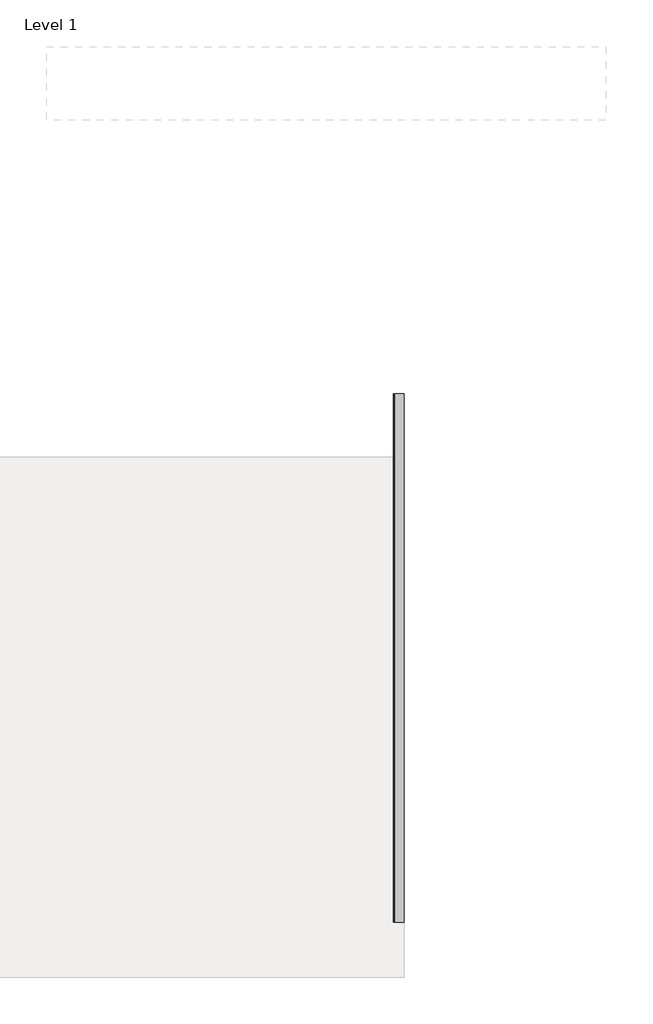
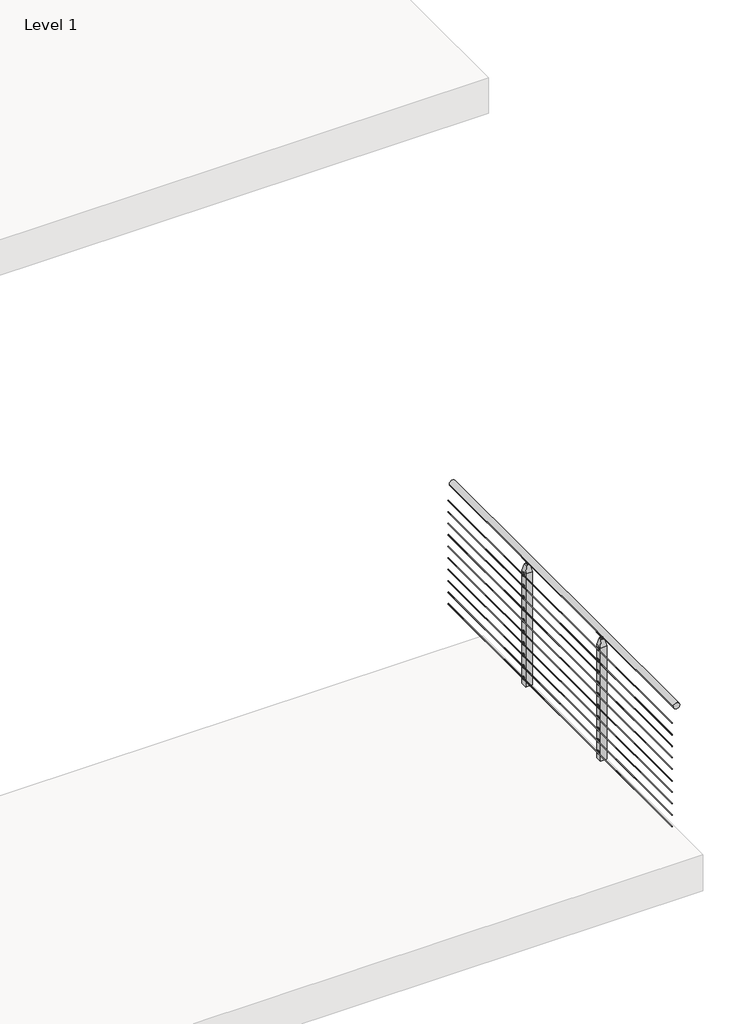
# One storey, part 7 of 26: 1 railing.
"""IFC4 building model written with IfcOpenShell, lengths in millimetres."""

from ifc_helpers import new_model, si_unit, point, frame, frame_2d, origin, place, context, project, spatial, polyline, circle_curve, trimmed, segment, composite_curve, outline, extrude, faceted_brep, element, save
from ifc_brep_helpers import plane_surface, cylinder_surface, advanced_brep

model = new_model("IFC4")

# Units and contexts
model_context = context("Model", 3, world=origin())
ifc_project = project(units=[si_unit("LENGTHUNIT", "METRE", prefix="MILLI")], contexts=[model_context])

# Site, building, storey
site = spatial("IfcSite", under=ifc_project)
building = spatial("IfcBuilding", under=site)
storey = spatial("IfcBuildingStorey", under=building, Name="Level 1", Elevation=0.0)

# Railing
placement = place(None, origin())
element("IfcRailing", 1, ObjectType="VIVA-CUBE-Multiline-Cable-Weld Mount-Straight", at=placement, inside=storey, context=model_context, shape_type="SolidModel", body=[
    extrude(outline(composite_curve([segment(trimmed(circle_curve(frame_2d((1054.1, 45321.3855247)), 25.4), [point((1054.1, 45346.7855247))], [point((1054.1, 45295.9855247))], False, "CARTESIAN"), True, "CONTINUOUS"), segment(trimmed(circle_curve(frame_2d((1054.1, 45321.3855247)), 25.4), [point((1054.1, 45295.9855247))], [point((1054.1, 45346.7855247))], False, "CARTESIAN"), True, "CONTINUOUS")], self_intersect=False)), frame((0.0, -73467.0943064, 0.0), z_axis=(0.0, 1.0, 0.0), x_axis=(0.0, 0.0, 1.0)), (0.0, 0.0, 1.0), 3048.0),
    extrude(outline(composite_curve([segment(trimmed(circle_curve(frame_2d((922.1724, 45288.3655247)), 2.3876), [point((922.1724, 45285.9779247))], [point((922.1724, 45290.7531247))], False, "CARTESIAN"), True, "CONTINUOUS"), segment(trimmed(circle_curve(frame_2d((922.1724, 45288.3655247)), 2.3876), [point((922.1724, 45290.7531247))], [point((922.1724, 45285.9779247))], False, "CARTESIAN"), True, "CONTINUOUS")], self_intersect=False)), frame((0.0, -73467.0943064, 0.0), z_axis=(0.0, 1.0, 0.0), x_axis=(0.0, 0.0, 1.0)), (0.0, 0.0, 1.0), 3048.0),
    extrude(outline(composite_curve([segment(trimmed(circle_curve(frame_2d((824.3824, 45288.3655247)), 2.3876), [point((824.3824, 45285.9779247))], [point((824.3824, 45290.7531247))], False, "CARTESIAN"), True, "CONTINUOUS"), segment(trimmed(circle_curve(frame_2d((824.3824, 45288.3655247)), 2.3876), [point((824.3824, 45290.7531247))], [point((824.3824, 45285.9779247))], False, "CARTESIAN"), True, "CONTINUOUS")], self_intersect=False)), frame((0.0, -73467.0943064, 0.0), z_axis=(0.0, 1.0, 0.0), x_axis=(0.0, 0.0, 1.0)), (0.0, 0.0, 1.0), 3048.0),
    extrude(outline(composite_curve([segment(trimmed(circle_curve(frame_2d((729.1324, 45288.3655247)), 2.3876), [point((729.1324, 45285.9779247))], [point((729.1324, 45290.7531247))], False, "CARTESIAN"), True, "CONTINUOUS"), segment(trimmed(circle_curve(frame_2d((729.1324, 45288.3655247)), 2.3876), [point((729.1324, 45290.7531247))], [point((729.1324, 45285.9779247))], False, "CARTESIAN"), True, "CONTINUOUS")], self_intersect=False)), frame((0.0, -73467.0943064, 0.0), z_axis=(0.0, 1.0, 0.0), x_axis=(0.0, 0.0, 1.0)), (0.0, 0.0, 1.0), 3048.0),
    extrude(outline(composite_curve([segment(trimmed(circle_curve(frame_2d((636.4224, 45288.3655247)), 2.3876), [point((636.4224, 45285.9779247))], [point((636.4224, 45290.7531247))], False, "CARTESIAN"), True, "CONTINUOUS"), segment(trimmed(circle_curve(frame_2d((636.4224, 45288.3655247)), 2.3876), [point((636.4224, 45290.7531247))], [point((636.4224, 45285.9779247))], False, "CARTESIAN"), True, "CONTINUOUS")], self_intersect=False)), frame((0.0, -73467.0943064, 0.0), z_axis=(0.0, 1.0, 0.0), x_axis=(0.0, 0.0, 1.0)), (0.0, 0.0, 1.0), 3048.0),
    extrude(outline(composite_curve([segment(trimmed(circle_curve(frame_2d((539.9024, 45288.3655247)), 2.3876), [point((539.9024, 45285.9779247))], [point((539.9024, 45290.7531247))], False, "CARTESIAN"), True, "CONTINUOUS"), segment(trimmed(circle_curve(frame_2d((539.9024, 45288.3655247)), 2.3876), [point((539.9024, 45290.7531247))], [point((539.9024, 45285.9779247))], False, "CARTESIAN"), True, "CONTINUOUS")], self_intersect=False)), frame((0.0, -73467.0943064, 0.0), z_axis=(0.0, 1.0, 0.0), x_axis=(0.0, 0.0, 1.0)), (0.0, 0.0, 1.0), 3048.0),
    extrude(outline(composite_curve([segment(trimmed(circle_curve(frame_2d((442.1124, 45288.3655247)), 2.3876), [point((442.1124, 45285.9779247))], [point((442.1124, 45290.7531247))], False, "CARTESIAN"), True, "CONTINUOUS"), segment(trimmed(circle_curve(frame_2d((442.1124, 45288.3655247)), 2.3876), [point((442.1124, 45290.7531247))], [point((442.1124, 45285.9779247))], False, "CARTESIAN"), True, "CONTINUOUS")], self_intersect=False)), frame((0.0, -73467.0943064, 0.0), z_axis=(0.0, 1.0, 0.0), x_axis=(0.0, 0.0, 1.0)), (0.0, 0.0, 1.0), 3048.0),
    extrude(outline(composite_curve([segment(trimmed(circle_curve(frame_2d((349.4024, 45288.3655247)), 2.3876), [point((349.4024, 45285.9779247))], [point((349.4024, 45290.7531247))], False, "CARTESIAN"), True, "CONTINUOUS"), segment(trimmed(circle_curve(frame_2d((349.4024, 45288.3655247)), 2.3876), [point((349.4024, 45290.7531247))], [point((349.4024, 45285.9779247))], False, "CARTESIAN"), True, "CONTINUOUS")], self_intersect=False)), frame((0.0, -73467.0943064, 0.0), z_axis=(0.0, 1.0, 0.0), x_axis=(0.0, 0.0, 1.0)), (0.0, 0.0, 1.0), 3048.0),
    extrude(outline(composite_curve([segment(trimmed(circle_curve(frame_2d((254.1524, 45288.3655247)), 2.3876), [point((254.1524, 45285.9779247))], [point((254.1524, 45290.7531247))], False, "CARTESIAN"), True, "CONTINUOUS"), segment(trimmed(circle_curve(frame_2d((254.1524, 45288.3655247)), 2.3876), [point((254.1524, 45290.7531247))], [point((254.1524, 45285.9779247))], False, "CARTESIAN"), True, "CONTINUOUS")], self_intersect=False)), frame((0.0, -73467.0943064, 0.0), z_axis=(0.0, 1.0, 0.0), x_axis=(0.0, 0.0, 1.0)), (0.0, 0.0, 1.0), 3048.0),
    extrude(outline(composite_curve([segment(trimmed(circle_curve(frame_2d((158.9024, 45288.3655247)), 2.3876), [point((158.9024, 45285.9779247))], [point((158.9024, 45290.7531247))], False, "CARTESIAN"), True, "CONTINUOUS"), segment(trimmed(circle_curve(frame_2d((158.9024, 45288.3655247)), 2.3876), [point((158.9024, 45290.7531247))], [point((158.9024, 45285.9779247))], False, "CARTESIAN"), True, "CONTINUOUS")], self_intersect=False)), frame((0.0, -73467.0943064, 0.0), z_axis=(0.0, 1.0, 0.0), x_axis=(0.0, 0.0, 1.0)), (0.0, 0.0, 1.0), 3048.0),
    extrude(outline(composite_curve([segment(trimmed(circle_curve(frame_2d((63.6524, 45288.3655247)), 2.3876), [point((63.6524, 45285.9779247))], [point((63.6524, 45290.7531247))], False, "CARTESIAN"), True, "CONTINUOUS"), segment(trimmed(circle_curve(frame_2d((63.6524, 45288.3655247)), 2.3876), [point((63.6524, 45290.7531247))], [point((63.6524, 45285.9779247))], False, "CARTESIAN"), True, "CONTINUOUS")], self_intersect=False)), frame((0.0, -73467.0943064, 0.0), z_axis=(0.0, 1.0, 0.0), x_axis=(0.0, 0.0, 1.0)), (0.0, 0.0, 1.0), 3048.0),
    advanced_brep(
    [(45290.6423505, -71421.6340985, 63.5), (45290.6423505, -71446.9670144, 63.5), (45290.6423505, -71434.3005564, 63.5), (45295.9763505, -71421.6340985, 63.5), (45295.9763505, -71446.9670144, 63.5), (45295.9763505, -71434.3005564, 63.5)],
    [
        (0, 1, circle_curve(frame((45290.6423505, -71434.3005564, 63.5), z_axis=(-1.0, 0.0, 0.0), x_axis=(0.0, -1.0, 0.0)), 12.666458)),
        (1, 2),
        (2, 0),
        (1, 0, circle_curve(frame((45290.6423505, -71434.3005564, 63.5), z_axis=(-1.0, 0.0, 0.0), x_axis=(0.0, -1.0, 0.0)), 12.666458)),
        (3, 4, circle_curve(frame((45295.9763505, -71434.3005564, 63.5), z_axis=(-1.0, 0.0, 0.0), x_axis=(0.0, -1.0, 0.0)), 12.666458)),
        (4, 1),
        (0, 3),
        (4, 3, circle_curve(frame((45295.9763505, -71434.3005564, 63.5), z_axis=(-1.0, 0.0, 0.0), x_axis=(0.0, -1.0, 0.0)), 12.666458)),
        (5, 4),
        (3, 5),
    ],
    [
        plane_surface(frame((45290.6423505, -71434.3005564, 63.5), z_axis=(-1.0, 0.0, 0.0), x_axis=(0.0, -1.0, 0.0))),
        cylinder_surface(frame((45422.9855247, -71434.3005564, 63.5), z_axis=(1.0, 0.0, 0.0), x_axis=(0.0, -1.0, 0.0)), 12.666458),
        plane_surface(frame((45295.9763505, -71434.3005564, 63.5), z_axis=(1.0, 0.0, 0.0), x_axis=(0.0, -1.0, 0.0))),
    ],
    [
        (0, [[1, 2, 3]]),
        (0, [[4, -3, -2]]),
        (1, [[5, 6, -1, 7]]),
        (1, [[8, -7, -4, -6]]),
        (2, [[9, -5, 10]]),
        (2, [[-10, -8, -9]]),
    ],
),
    advanced_brep(
    [(45290.6423505, -71421.6340985, 158.75), (45290.6423505, -71446.9670144, 158.75), (45290.6423505, -71434.3005564, 158.75), (45295.9763505, -71421.6340985, 158.75), (45295.9763505, -71446.9670144, 158.75), (45295.9763505, -71434.3005564, 158.75)],
    [
        (0, 1, circle_curve(frame((45290.6423505, -71434.3005564, 158.75), z_axis=(-1.0, 0.0, 0.0), x_axis=(0.0, -1.0, 0.0)), 12.666458)),
        (1, 2),
        (2, 0),
        (1, 0, circle_curve(frame((45290.6423505, -71434.3005564, 158.75), z_axis=(-1.0, 0.0, 0.0), x_axis=(0.0, -1.0, 0.0)), 12.666458)),
        (3, 4, circle_curve(frame((45295.9763505, -71434.3005564, 158.75), z_axis=(-1.0, 0.0, 0.0), x_axis=(0.0, -1.0, 0.0)), 12.666458)),
        (4, 1),
        (0, 3),
        (4, 3, circle_curve(frame((45295.9763505, -71434.3005564, 158.75), z_axis=(-1.0, 0.0, 0.0), x_axis=(0.0, -1.0, 0.0)), 12.666458)),
        (5, 4),
        (3, 5),
    ],
    [
        plane_surface(frame((45290.6423505, -71434.3005564, 158.75), z_axis=(-1.0, 0.0, 0.0), x_axis=(0.0, -1.0, 0.0))),
        cylinder_surface(frame((45422.9855247, -71434.3005564, 158.75), z_axis=(1.0, 0.0, 0.0), x_axis=(0.0, -1.0, 0.0)), 12.666458),
        plane_surface(frame((45295.9763505, -71434.3005564, 158.75), z_axis=(1.0, 0.0, 0.0), x_axis=(0.0, -1.0, 0.0))),
    ],
    [
        (0, [[1, 2, 3]]),
        (0, [[4, -3, -2]]),
        (1, [[5, 6, -1, 7]]),
        (1, [[8, -7, -4, -6]]),
        (2, [[9, -5, 10]]),
        (2, [[-10, -8, -9]]),
    ],
),
    advanced_brep(
    [(45290.6423505, -71421.6340985, 254.0), (45290.6423505, -71446.9670144, 254.0), (45290.6423505, -71434.3005564, 254.0), (45295.9763505, -71421.6340985, 254.0), (45295.9763505, -71446.9670144, 254.0), (45295.9763505, -71434.3005564, 254.0)],
    [
        (0, 1, circle_curve(frame((45290.6423505, -71434.3005564, 254.0), z_axis=(-1.0, 0.0, 0.0), x_axis=(0.0, -1.0, 0.0)), 12.666458)),
        (1, 2),
        (2, 0),
        (1, 0, circle_curve(frame((45290.6423505, -71434.3005564, 254.0), z_axis=(-1.0, 0.0, 0.0), x_axis=(0.0, -1.0, 0.0)), 12.666458)),
        (3, 4, circle_curve(frame((45295.9763505, -71434.3005564, 254.0), z_axis=(-1.0, 0.0, 0.0), x_axis=(0.0, -1.0, 0.0)), 12.666458)),
        (4, 1),
        (0, 3),
        (4, 3, circle_curve(frame((45295.9763505, -71434.3005564, 254.0), z_axis=(-1.0, 0.0, 0.0), x_axis=(0.0, -1.0, 0.0)), 12.666458)),
        (5, 4),
        (3, 5),
    ],
    [
        plane_surface(frame((45290.6423505, -71434.3005564, 254.0), z_axis=(-1.0, 0.0, 0.0), x_axis=(0.0, -1.0, 0.0))),
        cylinder_surface(frame((45422.9855247, -71434.3005564, 254.0), z_axis=(1.0, 0.0, 0.0), x_axis=(0.0, -1.0, 0.0)), 12.666458),
        plane_surface(frame((45295.9763505, -71434.3005564, 254.0), z_axis=(1.0, 0.0, 0.0), x_axis=(0.0, -1.0, 0.0))),
    ],
    [
        (0, [[1, 2, 3]]),
        (0, [[4, -3, -2]]),
        (1, [[5, 6, -1, 7]]),
        (1, [[8, -7, -4, -6]]),
        (2, [[9, -5, 10]]),
        (2, [[-10, -8, -9]]),
    ],
),
    advanced_brep(
    [(45290.6423505, -71421.6340985, 349.25), (45290.6423505, -71446.9670144, 349.25), (45290.6423505, -71434.3005564, 349.25), (45295.9763505, -71421.6340985, 349.25), (45295.9763505, -71446.9670144, 349.25), (45295.9763505, -71434.3005564, 349.25)],
    [
        (0, 1, circle_curve(frame((45290.6423505, -71434.3005564, 349.25), z_axis=(-1.0, 0.0, 0.0), x_axis=(0.0, -1.0, 0.0)), 12.666458)),
        (1, 2),
        (2, 0),
        (1, 0, circle_curve(frame((45290.6423505, -71434.3005564, 349.25), z_axis=(-1.0, 0.0, 0.0), x_axis=(0.0, -1.0, 0.0)), 12.666458)),
        (3, 4, circle_curve(frame((45295.9763505, -71434.3005564, 349.25), z_axis=(-1.0, 0.0, 0.0), x_axis=(0.0, -1.0, 0.0)), 12.666458)),
        (4, 1),
        (0, 3),
        (4, 3, circle_curve(frame((45295.9763505, -71434.3005564, 349.25), z_axis=(-1.0, 0.0, 0.0), x_axis=(0.0, -1.0, 0.0)), 12.666458)),
        (5, 4),
        (3, 5),
    ],
    [
        plane_surface(frame((45290.6423505, -71434.3005564, 349.25), z_axis=(-1.0, 0.0, 0.0), x_axis=(0.0, -1.0, 0.0))),
        cylinder_surface(frame((45422.9855247, -71434.3005564, 349.25), z_axis=(1.0, 0.0, 0.0), x_axis=(0.0, -1.0, 0.0)), 12.666458),
        plane_surface(frame((45295.9763505, -71434.3005564, 349.25), z_axis=(1.0, 0.0, 0.0), x_axis=(0.0, -1.0, 0.0))),
    ],
    [
        (0, [[1, 2, 3]]),
        (0, [[4, -3, -2]]),
        (1, [[5, 6, -1, 7]]),
        (1, [[8, -7, -4, -6]]),
        (2, [[9, -5, 10]]),
        (2, [[-10, -8, -9]]),
    ],
),
    advanced_brep(
    [(45290.6423505, -71421.6340985, 444.5), (45290.6423505, -71446.9670144, 444.5), (45290.6423505, -71434.3005564, 444.5), (45295.9763505, -71421.6340985, 444.5), (45295.9763505, -71446.9670144, 444.5), (45295.9763505, -71434.3005564, 444.5)],
    [
        (0, 1, circle_curve(frame((45290.6423505, -71434.3005564, 444.5), z_axis=(-1.0, 0.0, 0.0), x_axis=(0.0, -1.0, 0.0)), 12.666458)),
        (1, 2),
        (2, 0),
        (1, 0, circle_curve(frame((45290.6423505, -71434.3005564, 444.5), z_axis=(-1.0, 0.0, 0.0), x_axis=(0.0, -1.0, 0.0)), 12.666458)),
        (3, 4, circle_curve(frame((45295.9763505, -71434.3005564, 444.5), z_axis=(-1.0, 0.0, 0.0), x_axis=(0.0, -1.0, 0.0)), 12.666458)),
        (4, 1),
        (0, 3),
        (4, 3, circle_curve(frame((45295.9763505, -71434.3005564, 444.5), z_axis=(-1.0, 0.0, 0.0), x_axis=(0.0, -1.0, 0.0)), 12.666458)),
        (5, 4),
        (3, 5),
    ],
    [
        plane_surface(frame((45290.6423505, -71434.3005564, 444.5), z_axis=(-1.0, 0.0, 0.0), x_axis=(0.0, -1.0, 0.0))),
        cylinder_surface(frame((45422.9855247, -71434.3005564, 444.5), z_axis=(1.0, 0.0, 0.0), x_axis=(0.0, -1.0, 0.0)), 12.666458),
        plane_surface(frame((45295.9763505, -71434.3005564, 444.5), z_axis=(1.0, 0.0, 0.0), x_axis=(0.0, -1.0, 0.0))),
    ],
    [
        (0, [[1, 2, 3]]),
        (0, [[4, -3, -2]]),
        (1, [[5, 6, -1, 7]]),
        (1, [[8, -7, -4, -6]]),
        (2, [[9, -5, 10]]),
        (2, [[-10, -8, -9]]),
    ],
),
    advanced_brep(
    [(45290.6423505, -71421.6340985, 539.75), (45290.6423505, -71446.9670144, 539.75), (45290.6423505, -71434.3005564, 539.75), (45295.9763505, -71421.6340985, 539.75), (45295.9763505, -71446.9670144, 539.75), (45295.9763505, -71434.3005564, 539.75)],
    [
        (0, 1, circle_curve(frame((45290.6423505, -71434.3005564, 539.75), z_axis=(-1.0, 0.0, 0.0), x_axis=(0.0, -1.0, 0.0)), 12.666458)),
        (1, 2),
        (2, 0),
        (1, 0, circle_curve(frame((45290.6423505, -71434.3005564, 539.75), z_axis=(-1.0, 0.0, 0.0), x_axis=(0.0, -1.0, 0.0)), 12.666458)),
        (3, 4, circle_curve(frame((45295.9763505, -71434.3005564, 539.75), z_axis=(-1.0, 0.0, 0.0), x_axis=(0.0, -1.0, 0.0)), 12.666458)),
        (4, 1),
        (0, 3),
        (4, 3, circle_curve(frame((45295.9763505, -71434.3005564, 539.75), z_axis=(-1.0, 0.0, 0.0), x_axis=(0.0, -1.0, 0.0)), 12.666458)),
        (5, 4),
        (3, 5),
    ],
    [
        plane_surface(frame((45290.6423505, -71434.3005564, 539.75), z_axis=(-1.0, 0.0, 0.0), x_axis=(0.0, -1.0, 0.0))),
        cylinder_surface(frame((45422.9855247, -71434.3005564, 539.75), z_axis=(1.0, 0.0, 0.0), x_axis=(0.0, -1.0, 0.0)), 12.666458),
        plane_surface(frame((45295.9763505, -71434.3005564, 539.75), z_axis=(1.0, 0.0, 0.0), x_axis=(0.0, -1.0, 0.0))),
    ],
    [
        (0, [[1, 2, 3]]),
        (0, [[4, -3, -2]]),
        (1, [[5, 6, -1, 7]]),
        (1, [[8, -7, -4, -6]]),
        (2, [[9, -5, 10]]),
        (2, [[-10, -8, -9]]),
    ],
),
    advanced_brep(
    [(45290.6423505, -71421.6340985, 635.0), (45290.6423505, -71446.9670144, 635.0), (45290.6423505, -71434.3005564, 635.0), (45295.9763505, -71421.6340985, 635.0), (45295.9763505, -71446.9670144, 635.0), (45295.9763505, -71434.3005564, 635.0)],
    [
        (0, 1, circle_curve(frame((45290.6423505, -71434.3005564, 635.0), z_axis=(-1.0, 0.0, 0.0), x_axis=(0.0, -1.0, 0.0)), 12.666458)),
        (1, 2),
        (2, 0),
        (1, 0, circle_curve(frame((45290.6423505, -71434.3005564, 635.0), z_axis=(-1.0, 0.0, 0.0), x_axis=(0.0, -1.0, 0.0)), 12.666458)),
        (3, 4, circle_curve(frame((45295.9763505, -71434.3005564, 635.0), z_axis=(-1.0, 0.0, 0.0), x_axis=(0.0, -1.0, 0.0)), 12.666458)),
        (4, 1),
        (0, 3),
        (4, 3, circle_curve(frame((45295.9763505, -71434.3005564, 635.0), z_axis=(-1.0, 0.0, 0.0), x_axis=(0.0, -1.0, 0.0)), 12.666458)),
        (5, 4),
        (3, 5),
    ],
    [
        plane_surface(frame((45290.6423505, -71434.3005564, 635.0), z_axis=(-1.0, 0.0, 0.0), x_axis=(0.0, -1.0, 0.0))),
        cylinder_surface(frame((45422.9855247, -71434.3005564, 635.0), z_axis=(1.0, 0.0, 0.0), x_axis=(0.0, -1.0, 0.0)), 12.666458),
        plane_surface(frame((45295.9763505, -71434.3005564, 635.0), z_axis=(1.0, 0.0, 0.0), x_axis=(0.0, -1.0, 0.0))),
    ],
    [
        (0, [[1, 2, 3]]),
        (0, [[4, -3, -2]]),
        (1, [[5, 6, -1, 7]]),
        (1, [[8, -7, -4, -6]]),
        (2, [[9, -5, 10]]),
        (2, [[-10, -8, -9]]),
    ],
),
    advanced_brep(
    [(45290.6423505, -71421.6340985, 730.25), (45290.6423505, -71446.9670144, 730.25), (45290.6423505, -71434.3005564, 730.25), (45295.9763505, -71421.6340985, 730.25), (45295.9763505, -71446.9670144, 730.25), (45295.9763505, -71434.3005564, 730.25)],
    [
        (0, 1, circle_curve(frame((45290.6423505, -71434.3005564, 730.25), z_axis=(-1.0, 0.0, 0.0), x_axis=(0.0, -1.0, 0.0)), 12.666458)),
        (1, 2),
        (2, 0),
        (1, 0, circle_curve(frame((45290.6423505, -71434.3005564, 730.25), z_axis=(-1.0, 0.0, 0.0), x_axis=(0.0, -1.0, 0.0)), 12.666458)),
        (3, 4, circle_curve(frame((45295.9763505, -71434.3005564, 730.25), z_axis=(-1.0, 0.0, 0.0), x_axis=(0.0, -1.0, 0.0)), 12.666458)),
        (4, 1),
        (0, 3),
        (4, 3, circle_curve(frame((45295.9763505, -71434.3005564, 730.25), z_axis=(-1.0, 0.0, 0.0), x_axis=(0.0, -1.0, 0.0)), 12.666458)),
        (5, 4),
        (3, 5),
    ],
    [
        plane_surface(frame((45290.6423505, -71434.3005564, 730.25), z_axis=(-1.0, 0.0, 0.0), x_axis=(0.0, -1.0, 0.0))),
        cylinder_surface(frame((45422.9855247, -71434.3005564, 730.25), z_axis=(1.0, 0.0, 0.0), x_axis=(0.0, -1.0, 0.0)), 12.666458),
        plane_surface(frame((45295.9763505, -71434.3005564, 730.25), z_axis=(1.0, 0.0, 0.0), x_axis=(0.0, -1.0, 0.0))),
    ],
    [
        (0, [[1, 2, 3]]),
        (0, [[4, -3, -2]]),
        (1, [[5, 6, -1, 7]]),
        (1, [[8, -7, -4, -6]]),
        (2, [[9, -5, 10]]),
        (2, [[-10, -8, -9]]),
    ],
),
    advanced_brep(
    [(45290.6423505, -71421.6340985, 825.5), (45290.6423505, -71446.9670144, 825.5), (45290.6423505, -71434.3005564, 825.5), (45295.9763505, -71421.6340985, 825.5), (45295.9763505, -71446.9670144, 825.5), (45295.9763505, -71434.3005564, 825.5)],
    [
        (0, 1, circle_curve(frame((45290.6423505, -71434.3005564, 825.5), z_axis=(-1.0, 0.0, 0.0), x_axis=(0.0, -1.0, 0.0)), 12.666458)),
        (1, 2),
        (2, 0),
        (1, 0, circle_curve(frame((45290.6423505, -71434.3005564, 825.5), z_axis=(-1.0, 0.0, 0.0), x_axis=(0.0, -1.0, 0.0)), 12.666458)),
        (3, 4, circle_curve(frame((45295.9763505, -71434.3005564, 825.5), z_axis=(-1.0, 0.0, 0.0), x_axis=(0.0, -1.0, 0.0)), 12.666458)),
        (4, 1),
        (0, 3),
        (4, 3, circle_curve(frame((45295.9763505, -71434.3005564, 825.5), z_axis=(-1.0, 0.0, 0.0), x_axis=(0.0, -1.0, 0.0)), 12.666458)),
        (5, 4),
        (3, 5),
    ],
    [
        plane_surface(frame((45290.6423505, -71434.3005564, 825.5), z_axis=(-1.0, 0.0, 0.0), x_axis=(0.0, -1.0, 0.0))),
        cylinder_surface(frame((45422.9855247, -71434.3005564, 825.5), z_axis=(1.0, 0.0, 0.0), x_axis=(0.0, -1.0, 0.0)), 12.666458),
        plane_surface(frame((45295.9763505, -71434.3005564, 825.5), z_axis=(1.0, 0.0, 0.0), x_axis=(0.0, -1.0, 0.0))),
    ],
    [
        (0, [[1, 2, 3]]),
        (0, [[4, -3, -2]]),
        (1, [[5, 6, -1, 7]]),
        (1, [[8, -7, -4, -6]]),
        (2, [[9, -5, 10]]),
        (2, [[-10, -8, -9]]),
    ],
),
    advanced_brep(
    [(45290.6423505, -71421.6340985, 920.75), (45290.6423505, -71446.9670144, 920.75), (45290.6423505, -71434.3005564, 920.75), (45295.9763505, -71421.6340985, 920.75), (45295.9763505, -71446.9670144, 920.75), (45295.9763505, -71434.3005564, 920.75)],
    [
        (0, 1, circle_curve(frame((45290.6423505, -71434.3005564, 920.75), z_axis=(-1.0, 0.0, 0.0), x_axis=(0.0, -1.0, 0.0)), 12.666458)),
        (1, 2),
        (2, 0),
        (1, 0, circle_curve(frame((45290.6423505, -71434.3005564, 920.75), z_axis=(-1.0, 0.0, 0.0), x_axis=(0.0, -1.0, 0.0)), 12.666458)),
        (3, 4, circle_curve(frame((45295.9763505, -71434.3005564, 920.75), z_axis=(-1.0, 0.0, 0.0), x_axis=(0.0, -1.0, 0.0)), 12.666458)),
        (4, 1),
        (0, 3),
        (4, 3, circle_curve(frame((45295.9763505, -71434.3005564, 920.75), z_axis=(-1.0, 0.0, 0.0), x_axis=(0.0, -1.0, 0.0)), 12.666458)),
        (5, 4),
        (3, 5),
    ],
    [
        plane_surface(frame((45290.6423505, -71434.3005564, 920.75), z_axis=(-1.0, 0.0, 0.0), x_axis=(0.0, -1.0, 0.0))),
        cylinder_surface(frame((45422.9855247, -71434.3005564, 920.75), z_axis=(1.0, 0.0, 0.0), x_axis=(0.0, -1.0, 0.0)), 12.666458),
        plane_surface(frame((45295.9763505, -71434.3005564, 920.75), z_axis=(1.0, 0.0, 0.0), x_axis=(0.0, -1.0, 0.0))),
    ],
    [
        (0, [[1, 2, 3]]),
        (0, [[4, -3, -2]]),
        (1, [[5, 6, -1, 7]]),
        (1, [[8, -7, -4, -6]]),
        (2, [[9, -5, 10]]),
        (2, [[-10, -8, -9]]),
    ],
),
    faceted_brep([(45308.6855247, -71421.9974314, 997.2902749), (45308.6855247, -71447.3974314, 997.2902749), (45317.4167747, -71447.3974314, 997.2902749), (45317.4167747, -71421.9974314, 997.2902749), (45334.0855247, -71447.3974314, 997.2902749), (45334.0855247, -71421.9974314, 997.2902749), (45325.3542747, -71421.9974314, 997.2902749), (45325.3542747, -71447.3974314, 997.2902749), (45295.9855247, -71409.2974314, 941.1347854), (45346.7855247, -71409.2974314, 941.1347854), (45295.9855247, -71460.0974314, 941.1347854), (45346.7855247, -71460.0974314, 941.1347854), (45295.9855247, -71409.2974314, -88.9), (45346.7855247, -71409.2974314, -88.9), (45346.7855247, -71460.0974314, -88.9), (45295.9855247, -71460.0974314, -88.9), (45325.3542747, -71447.3974314, 1009.3306013), (45325.3542747, -71421.9974314, 1009.3306013), (45317.4167747, -71421.9974314, 1009.3306013), (45317.4167747, -71447.3974314, 1009.3306013)], [[[0, 1, 2, 3]], [[4, 5, 6, 7]], [[8, 0, 3, 6, 5, 9]], [[1, 0, 8, 10]], [[1, 10, 11, 4, 7, 2]], [[5, 4, 11, 9]], [[12, 13, 14, 15]], [[12, 15, 10, 8]], [[15, 14, 11, 10]], [[14, 13, 9, 11]], [[13, 12, 8, 9]], [[16, 17, 18, 19]], [[17, 16, 7, 6]], [[18, 17, 6, 3]], [[19, 18, 3, 2]], [[16, 19, 2, 7]]]),
    extrude(outline(composite_curve([segment(trimmed(circle_curve(frame_2d((1054.1433184, 45321.2887963)), 25.4345159), [point((1032.0284941, 45333.8525992))], [point((1031.9335733, 45308.8935626))], True, "CARTESIAN"), True, "CONTINUOUS"), segment(trimmed(circle_curve(frame_2d((1029.4310885, 45307.6489094)), 2.7949225), [point((1031.9335733, 45308.8935626))], [point((1027.0585031, 45306.1716044))], False, "CARTESIAN"), True, "CONTINUOUS"), segment(trimmed(circle_curve(frame_2d((1054.905945, 45321.4222594)), 31.75), [point((1027.0585031, 45306.1716044))], [point((1027.6392616, 45337.6884966))], False, "CARTESIAN"), True, "CONTINUOUS"), segment(trimmed(circle_curve(frame_2d((1029.5101807, 45335.4001569)), 2.9558141), [point((1027.6392616, 45337.6884966))], [point((1032.0284941, 45333.8525992))], False, "CARTESIAN"), True, "CONTINUOUS")], self_intersect=False)), frame((0.0, -71479.9348314, 0.0), z_axis=(0.0, 1.0, 0.0), x_axis=(0.0, 0.0, 1.0)), (0.0, 0.0, 1.0), 90.4748),
    extrude(outline(composite_curve([segment(trimmed(circle_curve(frame_2d((-71407.6295165, 1009.0006022)), 14.3679149), [point((-71407.6295165, 1023.3685171))], [point((-71421.9974314, 1009.0006022))], True, "CARTESIAN"), True, "CONTINUOUS"), segment(trimmed(circle_curve(frame_2d((-71434.6974314, 1009.0006022)), 12.7), [point((-71421.9974314, 1009.0006022))], [point((-71447.3974314, 1009.0006022))], False, "CARTESIAN"), True, "CONTINUOUS"), segment(trimmed(circle_curve(frame_2d((-71461.7653463, 1009.0006022)), 14.3679149), [point((-71447.3974314, 1009.0006022))], [point((-71461.7653463, 1023.3685171))], True, "CARTESIAN"), True, "CONTINUOUS"), segment(polyline([(-71461.7653463, 1023.3685171), (-71407.6295165, 1023.3685171)]), True, "CONTINUOUS")], self_intersect=False)), frame((45318.8455247, 0.0, 0.0), z_axis=(1.0, 0.0, 0.0), x_axis=(0.0, 1.0, 0.0)), (0.0, 0.0, 1.0), 5.08),
    advanced_brep(
    [(45290.6423505, -72437.6340985, 63.5), (45290.6423505, -72462.9670144, 63.5), (45290.6423505, -72450.3005564, 63.5), (45295.9763505, -72437.6340985, 63.5), (45295.9763505, -72462.9670144, 63.5), (45295.9763505, -72450.3005564, 63.5)],
    [
        (0, 1, circle_curve(frame((45290.6423505, -72450.3005564, 63.5), z_axis=(-1.0, 0.0, 0.0), x_axis=(0.0, -1.0, 0.0)), 12.666458)),
        (1, 2),
        (2, 0),
        (1, 0, circle_curve(frame((45290.6423505, -72450.3005564, 63.5), z_axis=(-1.0, 0.0, 0.0), x_axis=(0.0, -1.0, 0.0)), 12.666458)),
        (3, 4, circle_curve(frame((45295.9763505, -72450.3005564, 63.5), z_axis=(-1.0, 0.0, 0.0), x_axis=(0.0, -1.0, 0.0)), 12.666458)),
        (4, 1),
        (0, 3),
        (4, 3, circle_curve(frame((45295.9763505, -72450.3005564, 63.5), z_axis=(-1.0, 0.0, 0.0), x_axis=(0.0, -1.0, 0.0)), 12.666458)),
        (5, 4),
        (3, 5),
    ],
    [
        plane_surface(frame((45290.6423505, -72450.3005564, 63.5), z_axis=(-1.0, 0.0, 0.0), x_axis=(0.0, -1.0, 0.0))),
        cylinder_surface(frame((45422.9855247, -72450.3005564, 63.5), z_axis=(1.0, 0.0, 0.0), x_axis=(0.0, -1.0, 0.0)), 12.666458),
        plane_surface(frame((45295.9763505, -72450.3005564, 63.5), z_axis=(1.0, 0.0, 0.0), x_axis=(0.0, -1.0, 0.0))),
    ],
    [
        (0, [[1, 2, 3]]),
        (0, [[4, -3, -2]]),
        (1, [[5, 6, -1, 7]]),
        (1, [[8, -7, -4, -6]]),
        (2, [[9, -5, 10]]),
        (2, [[-10, -8, -9]]),
    ],
),
    advanced_brep(
    [(45290.6423505, -72437.6340985, 158.75), (45290.6423505, -72462.9670144, 158.75), (45290.6423505, -72450.3005564, 158.75), (45295.9763505, -72437.6340985, 158.75), (45295.9763505, -72462.9670144, 158.75), (45295.9763505, -72450.3005564, 158.75)],
    [
        (0, 1, circle_curve(frame((45290.6423505, -72450.3005564, 158.75), z_axis=(-1.0, 0.0, 0.0), x_axis=(0.0, -1.0, 0.0)), 12.666458)),
        (1, 2),
        (2, 0),
        (1, 0, circle_curve(frame((45290.6423505, -72450.3005564, 158.75), z_axis=(-1.0, 0.0, 0.0), x_axis=(0.0, -1.0, 0.0)), 12.666458)),
        (3, 4, circle_curve(frame((45295.9763505, -72450.3005564, 158.75), z_axis=(-1.0, 0.0, 0.0), x_axis=(0.0, -1.0, 0.0)), 12.666458)),
        (4, 1),
        (0, 3),
        (4, 3, circle_curve(frame((45295.9763505, -72450.3005564, 158.75), z_axis=(-1.0, 0.0, 0.0), x_axis=(0.0, -1.0, 0.0)), 12.666458)),
        (5, 4),
        (3, 5),
    ],
    [
        plane_surface(frame((45290.6423505, -72450.3005564, 158.75), z_axis=(-1.0, 0.0, 0.0), x_axis=(0.0, -1.0, 0.0))),
        cylinder_surface(frame((45422.9855247, -72450.3005564, 158.75), z_axis=(1.0, 0.0, 0.0), x_axis=(0.0, -1.0, 0.0)), 12.666458),
        plane_surface(frame((45295.9763505, -72450.3005564, 158.75), z_axis=(1.0, 0.0, 0.0), x_axis=(0.0, -1.0, 0.0))),
    ],
    [
        (0, [[1, 2, 3]]),
        (0, [[4, -3, -2]]),
        (1, [[5, 6, -1, 7]]),
        (1, [[8, -7, -4, -6]]),
        (2, [[9, -5, 10]]),
        (2, [[-10, -8, -9]]),
    ],
),
    advanced_brep(
    [(45290.6423505, -72437.6340985, 254.0), (45290.6423505, -72462.9670144, 254.0), (45290.6423505, -72450.3005564, 254.0), (45295.9763505, -72437.6340985, 254.0), (45295.9763505, -72462.9670144, 254.0), (45295.9763505, -72450.3005564, 254.0)],
    [
        (0, 1, circle_curve(frame((45290.6423505, -72450.3005564, 254.0), z_axis=(-1.0, 0.0, 0.0), x_axis=(0.0, -1.0, 0.0)), 12.666458)),
        (1, 2),
        (2, 0),
        (1, 0, circle_curve(frame((45290.6423505, -72450.3005564, 254.0), z_axis=(-1.0, 0.0, 0.0), x_axis=(0.0, -1.0, 0.0)), 12.666458)),
        (3, 4, circle_curve(frame((45295.9763505, -72450.3005564, 254.0), z_axis=(-1.0, 0.0, 0.0), x_axis=(0.0, -1.0, 0.0)), 12.666458)),
        (4, 1),
        (0, 3),
        (4, 3, circle_curve(frame((45295.9763505, -72450.3005564, 254.0), z_axis=(-1.0, 0.0, 0.0), x_axis=(0.0, -1.0, 0.0)), 12.666458)),
        (5, 4),
        (3, 5),
    ],
    [
        plane_surface(frame((45290.6423505, -72450.3005564, 254.0), z_axis=(-1.0, 0.0, 0.0), x_axis=(0.0, -1.0, 0.0))),
        cylinder_surface(frame((45422.9855247, -72450.3005564, 254.0), z_axis=(1.0, 0.0, 0.0), x_axis=(0.0, -1.0, 0.0)), 12.666458),
        plane_surface(frame((45295.9763505, -72450.3005564, 254.0), z_axis=(1.0, 0.0, 0.0), x_axis=(0.0, -1.0, 0.0))),
    ],
    [
        (0, [[1, 2, 3]]),
        (0, [[4, -3, -2]]),
        (1, [[5, 6, -1, 7]]),
        (1, [[8, -7, -4, -6]]),
        (2, [[9, -5, 10]]),
        (2, [[-10, -8, -9]]),
    ],
),
    advanced_brep(
    [(45290.6423505, -72437.6340985, 349.25), (45290.6423505, -72462.9670144, 349.25), (45290.6423505, -72450.3005564, 349.25), (45295.9763505, -72437.6340985, 349.25), (45295.9763505, -72462.9670144, 349.25), (45295.9763505, -72450.3005564, 349.25)],
    [
        (0, 1, circle_curve(frame((45290.6423505, -72450.3005564, 349.25), z_axis=(-1.0, 0.0, 0.0), x_axis=(0.0, -1.0, 0.0)), 12.666458)),
        (1, 2),
        (2, 0),
        (1, 0, circle_curve(frame((45290.6423505, -72450.3005564, 349.25), z_axis=(-1.0, 0.0, 0.0), x_axis=(0.0, -1.0, 0.0)), 12.666458)),
        (3, 4, circle_curve(frame((45295.9763505, -72450.3005564, 349.25), z_axis=(-1.0, 0.0, 0.0), x_axis=(0.0, -1.0, 0.0)), 12.666458)),
        (4, 1),
        (0, 3),
        (4, 3, circle_curve(frame((45295.9763505, -72450.3005564, 349.25), z_axis=(-1.0, 0.0, 0.0), x_axis=(0.0, -1.0, 0.0)), 12.666458)),
        (5, 4),
        (3, 5),
    ],
    [
        plane_surface(frame((45290.6423505, -72450.3005564, 349.25), z_axis=(-1.0, 0.0, 0.0), x_axis=(0.0, -1.0, 0.0))),
        cylinder_surface(frame((45422.9855247, -72450.3005564, 349.25), z_axis=(1.0, 0.0, 0.0), x_axis=(0.0, -1.0, 0.0)), 12.666458),
        plane_surface(frame((45295.9763505, -72450.3005564, 349.25), z_axis=(1.0, 0.0, 0.0), x_axis=(0.0, -1.0, 0.0))),
    ],
    [
        (0, [[1, 2, 3]]),
        (0, [[4, -3, -2]]),
        (1, [[5, 6, -1, 7]]),
        (1, [[8, -7, -4, -6]]),
        (2, [[9, -5, 10]]),
        (2, [[-10, -8, -9]]),
    ],
),
    advanced_brep(
    [(45290.6423505, -72437.6340985, 444.5), (45290.6423505, -72462.9670144, 444.5), (45290.6423505, -72450.3005564, 444.5), (45295.9763505, -72437.6340985, 444.5), (45295.9763505, -72462.9670144, 444.5), (45295.9763505, -72450.3005564, 444.5)],
    [
        (0, 1, circle_curve(frame((45290.6423505, -72450.3005564, 444.5), z_axis=(-1.0, 0.0, 0.0), x_axis=(0.0, -1.0, 0.0)), 12.666458)),
        (1, 2),
        (2, 0),
        (1, 0, circle_curve(frame((45290.6423505, -72450.3005564, 444.5), z_axis=(-1.0, 0.0, 0.0), x_axis=(0.0, -1.0, 0.0)), 12.666458)),
        (3, 4, circle_curve(frame((45295.9763505, -72450.3005564, 444.5), z_axis=(-1.0, 0.0, 0.0), x_axis=(0.0, -1.0, 0.0)), 12.666458)),
        (4, 1),
        (0, 3),
        (4, 3, circle_curve(frame((45295.9763505, -72450.3005564, 444.5), z_axis=(-1.0, 0.0, 0.0), x_axis=(0.0, -1.0, 0.0)), 12.666458)),
        (5, 4),
        (3, 5),
    ],
    [
        plane_surface(frame((45290.6423505, -72450.3005564, 444.5), z_axis=(-1.0, 0.0, 0.0), x_axis=(0.0, -1.0, 0.0))),
        cylinder_surface(frame((45422.9855247, -72450.3005564, 444.5), z_axis=(1.0, 0.0, 0.0), x_axis=(0.0, -1.0, 0.0)), 12.666458),
        plane_surface(frame((45295.9763505, -72450.3005564, 444.5), z_axis=(1.0, 0.0, 0.0), x_axis=(0.0, -1.0, 0.0))),
    ],
    [
        (0, [[1, 2, 3]]),
        (0, [[4, -3, -2]]),
        (1, [[5, 6, -1, 7]]),
        (1, [[8, -7, -4, -6]]),
        (2, [[9, -5, 10]]),
        (2, [[-10, -8, -9]]),
    ],
),
    advanced_brep(
    [(45290.6423505, -72437.6340985, 539.75), (45290.6423505, -72462.9670144, 539.75), (45290.6423505, -72450.3005564, 539.75), (45295.9763505, -72437.6340985, 539.75), (45295.9763505, -72462.9670144, 539.75), (45295.9763505, -72450.3005564, 539.75)],
    [
        (0, 1, circle_curve(frame((45290.6423505, -72450.3005564, 539.75), z_axis=(-1.0, 0.0, 0.0), x_axis=(0.0, -1.0, 0.0)), 12.666458)),
        (1, 2),
        (2, 0),
        (1, 0, circle_curve(frame((45290.6423505, -72450.3005564, 539.75), z_axis=(-1.0, 0.0, 0.0), x_axis=(0.0, -1.0, 0.0)), 12.666458)),
        (3, 4, circle_curve(frame((45295.9763505, -72450.3005564, 539.75), z_axis=(-1.0, 0.0, 0.0), x_axis=(0.0, -1.0, 0.0)), 12.666458)),
        (4, 1),
        (0, 3),
        (4, 3, circle_curve(frame((45295.9763505, -72450.3005564, 539.75), z_axis=(-1.0, 0.0, 0.0), x_axis=(0.0, -1.0, 0.0)), 12.666458)),
        (5, 4),
        (3, 5),
    ],
    [
        plane_surface(frame((45290.6423505, -72450.3005564, 539.75), z_axis=(-1.0, 0.0, 0.0), x_axis=(0.0, -1.0, 0.0))),
        cylinder_surface(frame((45422.9855247, -72450.3005564, 539.75), z_axis=(1.0, 0.0, 0.0), x_axis=(0.0, -1.0, 0.0)), 12.666458),
        plane_surface(frame((45295.9763505, -72450.3005564, 539.75), z_axis=(1.0, 0.0, 0.0), x_axis=(0.0, -1.0, 0.0))),
    ],
    [
        (0, [[1, 2, 3]]),
        (0, [[4, -3, -2]]),
        (1, [[5, 6, -1, 7]]),
        (1, [[8, -7, -4, -6]]),
        (2, [[9, -5, 10]]),
        (2, [[-10, -8, -9]]),
    ],
),
    advanced_brep(
    [(45290.6423505, -72437.6340985, 635.0), (45290.6423505, -72462.9670144, 635.0), (45290.6423505, -72450.3005564, 635.0), (45295.9763505, -72437.6340985, 635.0), (45295.9763505, -72462.9670144, 635.0), (45295.9763505, -72450.3005564, 635.0)],
    [
        (0, 1, circle_curve(frame((45290.6423505, -72450.3005564, 635.0), z_axis=(-1.0, 0.0, 0.0), x_axis=(0.0, -1.0, 0.0)), 12.666458)),
        (1, 2),
        (2, 0),
        (1, 0, circle_curve(frame((45290.6423505, -72450.3005564, 635.0), z_axis=(-1.0, 0.0, 0.0), x_axis=(0.0, -1.0, 0.0)), 12.666458)),
        (3, 4, circle_curve(frame((45295.9763505, -72450.3005564, 635.0), z_axis=(-1.0, 0.0, 0.0), x_axis=(0.0, -1.0, 0.0)), 12.666458)),
        (4, 1),
        (0, 3),
        (4, 3, circle_curve(frame((45295.9763505, -72450.3005564, 635.0), z_axis=(-1.0, 0.0, 0.0), x_axis=(0.0, -1.0, 0.0)), 12.666458)),
        (5, 4),
        (3, 5),
    ],
    [
        plane_surface(frame((45290.6423505, -72450.3005564, 635.0), z_axis=(-1.0, 0.0, 0.0), x_axis=(0.0, -1.0, 0.0))),
        cylinder_surface(frame((45422.9855247, -72450.3005564, 635.0), z_axis=(1.0, 0.0, 0.0), x_axis=(0.0, -1.0, 0.0)), 12.666458),
        plane_surface(frame((45295.9763505, -72450.3005564, 635.0), z_axis=(1.0, 0.0, 0.0), x_axis=(0.0, -1.0, 0.0))),
    ],
    [
        (0, [[1, 2, 3]]),
        (0, [[4, -3, -2]]),
        (1, [[5, 6, -1, 7]]),
        (1, [[8, -7, -4, -6]]),
        (2, [[9, -5, 10]]),
        (2, [[-10, -8, -9]]),
    ],
),
    advanced_brep(
    [(45290.6423505, -72437.6340985, 730.25), (45290.6423505, -72462.9670144, 730.25), (45290.6423505, -72450.3005564, 730.25), (45295.9763505, -72437.6340985, 730.25), (45295.9763505, -72462.9670144, 730.25), (45295.9763505, -72450.3005564, 730.25)],
    [
        (0, 1, circle_curve(frame((45290.6423505, -72450.3005564, 730.25), z_axis=(-1.0, 0.0, 0.0), x_axis=(0.0, -1.0, 0.0)), 12.666458)),
        (1, 2),
        (2, 0),
        (1, 0, circle_curve(frame((45290.6423505, -72450.3005564, 730.25), z_axis=(-1.0, 0.0, 0.0), x_axis=(0.0, -1.0, 0.0)), 12.666458)),
        (3, 4, circle_curve(frame((45295.9763505, -72450.3005564, 730.25), z_axis=(-1.0, 0.0, 0.0), x_axis=(0.0, -1.0, 0.0)), 12.666458)),
        (4, 1),
        (0, 3),
        (4, 3, circle_curve(frame((45295.9763505, -72450.3005564, 730.25), z_axis=(-1.0, 0.0, 0.0), x_axis=(0.0, -1.0, 0.0)), 12.666458)),
        (5, 4),
        (3, 5),
    ],
    [
        plane_surface(frame((45290.6423505, -72450.3005564, 730.25), z_axis=(-1.0, 0.0, 0.0), x_axis=(0.0, -1.0, 0.0))),
        cylinder_surface(frame((45422.9855247, -72450.3005564, 730.25), z_axis=(1.0, 0.0, 0.0), x_axis=(0.0, -1.0, 0.0)), 12.666458),
        plane_surface(frame((45295.9763505, -72450.3005564, 730.25), z_axis=(1.0, 0.0, 0.0), x_axis=(0.0, -1.0, 0.0))),
    ],
    [
        (0, [[1, 2, 3]]),
        (0, [[4, -3, -2]]),
        (1, [[5, 6, -1, 7]]),
        (1, [[8, -7, -4, -6]]),
        (2, [[9, -5, 10]]),
        (2, [[-10, -8, -9]]),
    ],
),
    advanced_brep(
    [(45290.6423505, -72437.6340985, 825.5), (45290.6423505, -72462.9670144, 825.5), (45290.6423505, -72450.3005564, 825.5), (45295.9763505, -72437.6340985, 825.5), (45295.9763505, -72462.9670144, 825.5), (45295.9763505, -72450.3005564, 825.5)],
    [
        (0, 1, circle_curve(frame((45290.6423505, -72450.3005564, 825.5), z_axis=(-1.0, 0.0, 0.0), x_axis=(0.0, -1.0, 0.0)), 12.666458)),
        (1, 2),
        (2, 0),
        (1, 0, circle_curve(frame((45290.6423505, -72450.3005564, 825.5), z_axis=(-1.0, 0.0, 0.0), x_axis=(0.0, -1.0, 0.0)), 12.666458)),
        (3, 4, circle_curve(frame((45295.9763505, -72450.3005564, 825.5), z_axis=(-1.0, 0.0, 0.0), x_axis=(0.0, -1.0, 0.0)), 12.666458)),
        (4, 1),
        (0, 3),
        (4, 3, circle_curve(frame((45295.9763505, -72450.3005564, 825.5), z_axis=(-1.0, 0.0, 0.0), x_axis=(0.0, -1.0, 0.0)), 12.666458)),
        (5, 4),
        (3, 5),
    ],
    [
        plane_surface(frame((45290.6423505, -72450.3005564, 825.5), z_axis=(-1.0, 0.0, 0.0), x_axis=(0.0, -1.0, 0.0))),
        cylinder_surface(frame((45422.9855247, -72450.3005564, 825.5), z_axis=(1.0, 0.0, 0.0), x_axis=(0.0, -1.0, 0.0)), 12.666458),
        plane_surface(frame((45295.9763505, -72450.3005564, 825.5), z_axis=(1.0, 0.0, 0.0), x_axis=(0.0, -1.0, 0.0))),
    ],
    [
        (0, [[1, 2, 3]]),
        (0, [[4, -3, -2]]),
        (1, [[5, 6, -1, 7]]),
        (1, [[8, -7, -4, -6]]),
        (2, [[9, -5, 10]]),
        (2, [[-10, -8, -9]]),
    ],
),
    advanced_brep(
    [(45290.6423505, -72437.6340985, 920.75), (45290.6423505, -72462.9670144, 920.75), (45290.6423505, -72450.3005564, 920.75), (45295.9763505, -72437.6340985, 920.75), (45295.9763505, -72462.9670144, 920.75), (45295.9763505, -72450.3005564, 920.75)],
    [
        (0, 1, circle_curve(frame((45290.6423505, -72450.3005564, 920.75), z_axis=(-1.0, 0.0, 0.0), x_axis=(0.0, -1.0, 0.0)), 12.666458)),
        (1, 2),
        (2, 0),
        (1, 0, circle_curve(frame((45290.6423505, -72450.3005564, 920.75), z_axis=(-1.0, 0.0, 0.0), x_axis=(0.0, -1.0, 0.0)), 12.666458)),
        (3, 4, circle_curve(frame((45295.9763505, -72450.3005564, 920.75), z_axis=(-1.0, 0.0, 0.0), x_axis=(0.0, -1.0, 0.0)), 12.666458)),
        (4, 1),
        (0, 3),
        (4, 3, circle_curve(frame((45295.9763505, -72450.3005564, 920.75), z_axis=(-1.0, 0.0, 0.0), x_axis=(0.0, -1.0, 0.0)), 12.666458)),
        (5, 4),
        (3, 5),
    ],
    [
        plane_surface(frame((45290.6423505, -72450.3005564, 920.75), z_axis=(-1.0, 0.0, 0.0), x_axis=(0.0, -1.0, 0.0))),
        cylinder_surface(frame((45422.9855247, -72450.3005564, 920.75), z_axis=(1.0, 0.0, 0.0), x_axis=(0.0, -1.0, 0.0)), 12.666458),
        plane_surface(frame((45295.9763505, -72450.3005564, 920.75), z_axis=(1.0, 0.0, 0.0), x_axis=(0.0, -1.0, 0.0))),
    ],
    [
        (0, [[1, 2, 3]]),
        (0, [[4, -3, -2]]),
        (1, [[5, 6, -1, 7]]),
        (1, [[8, -7, -4, -6]]),
        (2, [[9, -5, 10]]),
        (2, [[-10, -8, -9]]),
    ],
),
    faceted_brep([(45308.6855247, -72437.9974314, 997.2902749), (45308.6855247, -72463.3974314, 997.2902749), (45317.4167747, -72463.3974314, 997.2902749), (45317.4167747, -72437.9974314, 997.2902749), (45334.0855247, -72463.3974314, 997.2902749), (45334.0855247, -72437.9974314, 997.2902749), (45325.3542747, -72437.9974314, 997.2902749), (45325.3542747, -72463.3974314, 997.2902749), (45295.9855247, -72425.2974314, 941.1347854), (45346.7855247, -72425.2974314, 941.1347854), (45295.9855247, -72476.0974314, 941.1347854), (45346.7855247, -72476.0974314, 941.1347854), (45295.9855247, -72425.2974314, -88.9), (45346.7855247, -72425.2974314, -88.9), (45346.7855247, -72476.0974314, -88.9), (45295.9855247, -72476.0974314, -88.9), (45325.3542747, -72463.3974314, 1009.3306013), (45325.3542747, -72437.9974314, 1009.3306013), (45317.4167747, -72437.9974314, 1009.3306013), (45317.4167747, -72463.3974314, 1009.3306013)], [[[0, 1, 2, 3]], [[4, 5, 6, 7]], [[8, 0, 3, 6, 5, 9]], [[1, 0, 8, 10]], [[1, 10, 11, 4, 7, 2]], [[5, 4, 11, 9]], [[12, 13, 14, 15]], [[12, 15, 10, 8]], [[15, 14, 11, 10]], [[14, 13, 9, 11]], [[13, 12, 8, 9]], [[16, 17, 18, 19]], [[17, 16, 7, 6]], [[18, 17, 6, 3]], [[19, 18, 3, 2]], [[16, 19, 2, 7]]]),
    extrude(outline(composite_curve([segment(trimmed(circle_curve(frame_2d((1054.1433184, 45321.2887963)), 25.4345159), [point((1032.0284941, 45333.8525992))], [point((1031.9335733, 45308.8935626))], True, "CARTESIAN"), True, "CONTINUOUS"), segment(trimmed(circle_curve(frame_2d((1029.4310885, 45307.6489094)), 2.7949225), [point((1031.9335733, 45308.8935626))], [point((1027.0585031, 45306.1716044))], False, "CARTESIAN"), True, "CONTINUOUS"), segment(trimmed(circle_curve(frame_2d((1054.905945, 45321.4222594)), 31.75), [point((1027.0585031, 45306.1716044))], [point((1027.6392616, 45337.6884966))], False, "CARTESIAN"), True, "CONTINUOUS"), segment(trimmed(circle_curve(frame_2d((1029.5101807, 45335.4001569)), 2.9558141), [point((1027.6392616, 45337.6884966))], [point((1032.0284941, 45333.8525992))], False, "CARTESIAN"), True, "CONTINUOUS")], self_intersect=False)), frame((0.0, -72495.9348314, 0.0), z_axis=(0.0, 1.0, 0.0), x_axis=(0.0, 0.0, 1.0)), (0.0, 0.0, 1.0), 90.4748),
    extrude(outline(composite_curve([segment(trimmed(circle_curve(frame_2d((-72423.6295165, 1009.0006022)), 14.3679149), [point((-72423.6295165, 1023.3685171))], [point((-72437.9974314, 1009.0006022))], True, "CARTESIAN"), True, "CONTINUOUS"), segment(trimmed(circle_curve(frame_2d((-72450.6974314, 1009.0006022)), 12.7), [point((-72437.9974314, 1009.0006022))], [point((-72463.3974314, 1009.0006022))], False, "CARTESIAN"), True, "CONTINUOUS"), segment(trimmed(circle_curve(frame_2d((-72477.7653463, 1009.0006022)), 14.3679149), [point((-72463.3974314, 1009.0006022))], [point((-72477.7653463, 1023.3685171))], True, "CARTESIAN"), True, "CONTINUOUS"), segment(polyline([(-72477.7653463, 1023.3685171), (-72423.6295165, 1023.3685171)]), True, "CONTINUOUS")], self_intersect=False)), frame((45318.8455247, 0.0, 0.0), z_axis=(1.0, 0.0, 0.0), x_axis=(0.0, 1.0, 0.0)), (0.0, 0.0, 1.0), 5.08),
])

save(model, "model.ifc")
